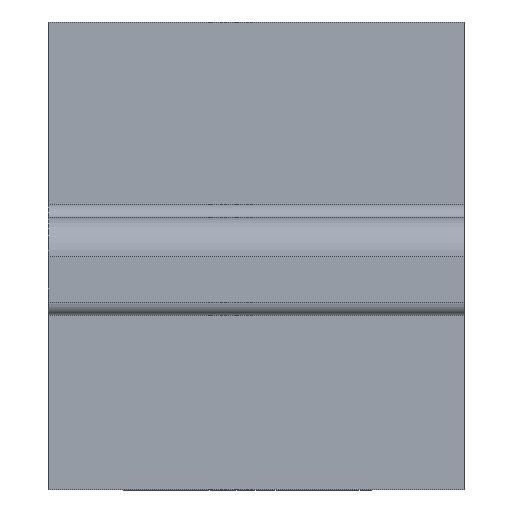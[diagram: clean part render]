
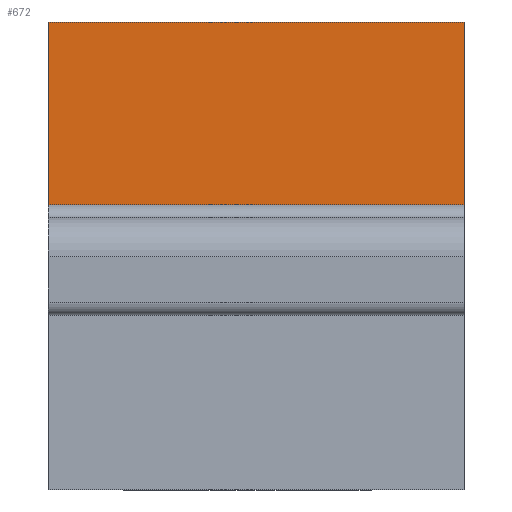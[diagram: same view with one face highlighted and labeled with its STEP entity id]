
A CAD part, front view. The second image highlights one B-rep face of the part: STEP entity #672.
In plain terms, the highlighted planar face has unit normal (0, -1, 0).
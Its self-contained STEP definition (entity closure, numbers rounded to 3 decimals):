
#11 = ORIENTED_EDGE ( 'NONE', *, *, #727, .T. ) ;
#53 = LINE ( 'NONE', #403, #84 ) ;
#60 = FACE_OUTER_BOUND ( 'NONE', #1066, .T. ) ;
#78 = VERTEX_POINT ( 'NONE', #220 ) ;
#84 = VECTOR ( 'NONE', #736, 1000. ) ;
#88 = EDGE_CURVE ( 'NONE', #78, #771, #132, .T. ) ;
#96 = CARTESIAN_POINT ( 'NONE',  ( 32., 9., 36. ) ) ;
#132 = LINE ( 'NONE', #1070, #504 ) ;
#148 = EDGE_CURVE ( 'NONE', #771, #640, #53, .T. ) ;
#188 = CARTESIAN_POINT ( 'NONE',  ( 32., 9., 21.95 ) ) ;
#205 = ORIENTED_EDGE ( 'NONE', *, *, #88, .F. ) ;
#220 = CARTESIAN_POINT ( 'NONE',  ( 32., 9., 36. ) ) ;
#241 = DIRECTION ( 'NONE',  ( 0., 1., 0. ) ) ;
#246 = DIRECTION ( 'NONE',  ( 1., 0., 0. ) ) ;
#293 = VERTEX_POINT ( 'NONE', #798 ) ;
#403 = CARTESIAN_POINT ( 'NONE',  ( 32., 9., 21.95 ) ) ;
#504 = VECTOR ( 'NONE', #731, 1000. ) ;
#629 = VECTOR ( 'NONE', #696, 1000. ) ;
#640 = VERTEX_POINT ( 'NONE', #848 ) ;
#649 = VECTOR ( 'NONE', #941, 1000. ) ;
#670 = PLANE ( 'NONE',  #818 ) ;
#672 = ADVANCED_FACE ( 'NONE', ( #60 ), #670, .F. ) ;
#696 = DIRECTION ( 'NONE',  ( -1., 0., 0. ) ) ;
#727 = EDGE_CURVE ( 'NONE', #78, #293, #1041, .T. ) ;
#730 = ORIENTED_EDGE ( 'NONE', *, *, #148, .F. ) ;
#731 = DIRECTION ( 'NONE',  ( 0., 0., -1. ) ) ;
#736 = DIRECTION ( 'NONE',  ( -1., 0., 0. ) ) ;
#742 = CARTESIAN_POINT ( 'NONE',  ( 32., 9., 36. ) ) ;
#771 = VERTEX_POINT ( 'NONE', #188 ) ;
#798 = CARTESIAN_POINT ( 'NONE',  ( 0., 9., 36. ) ) ;
#818 = AXIS2_PLACEMENT_3D ( 'NONE', #742, #241, #246 ) ;
#848 = CARTESIAN_POINT ( 'NONE',  ( 0., 9., 21.95 ) ) ;
#852 = EDGE_CURVE ( 'NONE', #293, #640, #920, .T. ) ;
#920 = LINE ( 'NONE', #1091, #649 ) ;
#941 = DIRECTION ( 'NONE',  ( 0., 0., -1. ) ) ;
#1041 = LINE ( 'NONE', #96, #629 ) ;
#1066 = EDGE_LOOP ( 'NONE', ( #1074, #730, #205, #11 ) ) ;
#1070 = CARTESIAN_POINT ( 'NONE',  ( 32., 9., 36. ) ) ;
#1074 = ORIENTED_EDGE ( 'NONE', *, *, #852, .T. ) ;
#1091 = CARTESIAN_POINT ( 'NONE',  ( 0., 9., 36. ) ) ;
